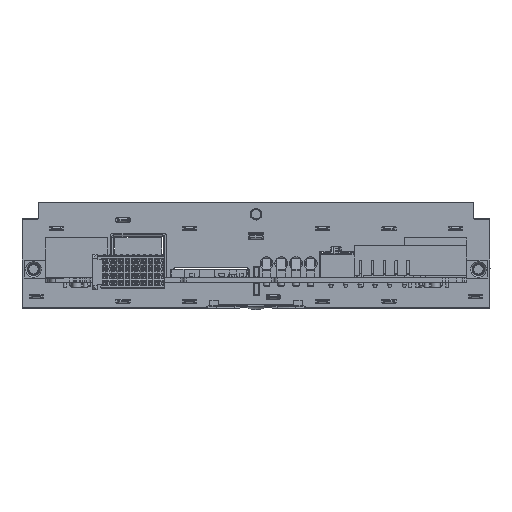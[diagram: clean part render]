
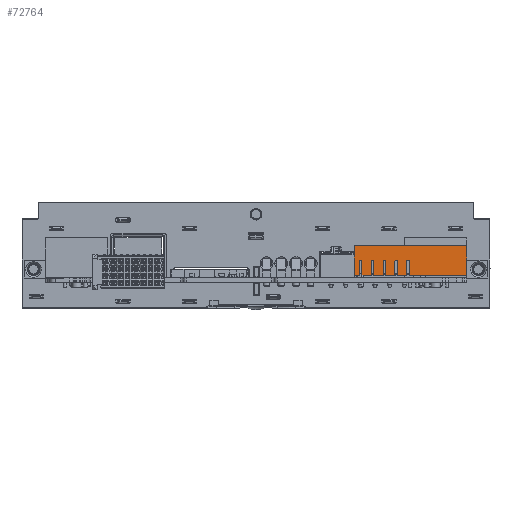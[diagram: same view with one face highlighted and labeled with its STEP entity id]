
A CAD part, front view. The second image highlights one B-rep face of the part: STEP entity #72764.
In plain terms, the highlighted planar face has unit normal (0, -1, 0).
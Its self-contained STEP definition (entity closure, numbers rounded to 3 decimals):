
#2527=CIRCLE('',#76932,0.433);
#2528=CIRCLE('',#76933,0.422);
#2529=CIRCLE('',#76934,0.422);
#2530=CIRCLE('',#76935,0.443);
#2531=CIRCLE('',#76936,0.433);
#4763=FACE_OUTER_BOUND('',#8829,.T.);
#8829=EDGE_LOOP('',(#46599,#46600,#46601,#46602,#46603,#46604,#46605,#46606,
#46607,#46608,#46609,#46610,#46611,#46612,#46613,#46614,#46615,#46616,#46617,
#46618,#46619,#46620,#46621,#46622));
#13408=LINE('',#103448,#21009);
#13543=LINE('',#104069,#21144);
#13586=LINE('',#104168,#21187);
#13909=LINE('',#104921,#21510);
#13910=LINE('',#104923,#21511);
#13911=LINE('',#104927,#21512);
#13912=LINE('',#104929,#21513);
#13913=LINE('',#104931,#21514);
#13914=LINE('',#104935,#21515);
#13915=LINE('',#104937,#21516);
#13916=LINE('',#104939,#21517);
#13917=LINE('',#104942,#21518);
#13918=LINE('',#104943,#21519);
#13919=LINE('',#104945,#21520);
#13920=LINE('',#104947,#21521);
#13921=LINE('',#104951,#21522);
#13922=LINE('',#104953,#21523);
#13923=LINE('',#104955,#21524);
#13924=LINE('',#104958,#21525);
#21009=VECTOR('',#83299,10.28);
#21144=VECTOR('',#83552,39.053);
#21187=VECTOR('',#83621,19.944);
#21510=VECTOR('',#84308,3.223);
#21511=VECTOR('',#84309,4.883);
#21512=VECTOR('',#84312,4.883);
#21513=VECTOR('',#84313,3.223);
#21514=VECTOR('',#84314,4.883);
#21515=VECTOR('',#84317,4.883);
#21516=VECTOR('',#84318,3.266);
#21517=VECTOR('',#84319,4.883);
#21518=VECTOR('',#84322,4.883);
#21519=VECTOR('',#84323,10.28);
#21520=VECTOR('',#84324,1.847);
#21521=VECTOR('',#84325,4.883);
#21522=VECTOR('',#84328,4.883);
#21523=VECTOR('',#84329,3.245);
#21524=VECTOR('',#84330,4.883);
#21525=VECTOR('',#84333,4.883);
#28562=VERTEX_POINT('',#103445);
#28563=VERTEX_POINT('',#103447);
#28722=VERTEX_POINT('',#104068);
#28764=VERTEX_POINT('',#104165);
#28765=VERTEX_POINT('',#104167);
#29012=VERTEX_POINT('',#104919);
#29013=VERTEX_POINT('',#104920);
#29014=VERTEX_POINT('',#104922);
#29015=VERTEX_POINT('',#104924);
#29016=VERTEX_POINT('',#104926);
#29017=VERTEX_POINT('',#104928);
#29018=VERTEX_POINT('',#104930);
#29019=VERTEX_POINT('',#104932);
#29020=VERTEX_POINT('',#104934);
#29021=VERTEX_POINT('',#104936);
#29022=VERTEX_POINT('',#104938);
#29023=VERTEX_POINT('',#104940);
#29024=VERTEX_POINT('',#104944);
#29025=VERTEX_POINT('',#104946);
#29026=VERTEX_POINT('',#104948);
#29027=VERTEX_POINT('',#104950);
#29028=VERTEX_POINT('',#104952);
#29029=VERTEX_POINT('',#104954);
#29030=VERTEX_POINT('',#104956);
#35214=EDGE_CURVE('',#28563,#28562,#13408,.T.);
#35388=EDGE_CURVE('',#28563,#28722,#13543,.T.);
#35439=EDGE_CURVE('',#28765,#28764,#13586,.T.);
#35821=EDGE_CURVE('',#29012,#29013,#13909,.T.);
#35822=EDGE_CURVE('',#29013,#29014,#13910,.T.);
#35823=EDGE_CURVE('',#29014,#29015,#2527,.T.);
#35824=EDGE_CURVE('',#29016,#29015,#13911,.T.);
#35825=EDGE_CURVE('',#29016,#29017,#13912,.T.);
#35826=EDGE_CURVE('',#29017,#29018,#13913,.T.);
#35827=EDGE_CURVE('',#29018,#29019,#2528,.T.);
#35828=EDGE_CURVE('',#29020,#29019,#13914,.T.);
#35829=EDGE_CURVE('',#29020,#29021,#13915,.T.);
#35830=EDGE_CURVE('',#29021,#29022,#13916,.T.);
#35831=EDGE_CURVE('',#29022,#29023,#2529,.T.);
#35832=EDGE_CURVE('',#29023,#28765,#13917,.T.);
#35833=EDGE_CURVE('',#28722,#28764,#13918,.T.);
#35834=EDGE_CURVE('',#28562,#29024,#13919,.T.);
#35835=EDGE_CURVE('',#29024,#29025,#13920,.T.);
#35836=EDGE_CURVE('',#29025,#29026,#2530,.T.);
#35837=EDGE_CURVE('',#29027,#29026,#13921,.T.);
#35838=EDGE_CURVE('',#29027,#29028,#13922,.T.);
#35839=EDGE_CURVE('',#29028,#29029,#13923,.T.);
#35840=EDGE_CURVE('',#29029,#29030,#2531,.T.);
#35841=EDGE_CURVE('',#29012,#29030,#13924,.T.);
#46599=ORIENTED_EDGE('',*,*,#35821,.T.);
#46600=ORIENTED_EDGE('',*,*,#35822,.T.);
#46601=ORIENTED_EDGE('',*,*,#35823,.T.);
#46602=ORIENTED_EDGE('',*,*,#35824,.F.);
#46603=ORIENTED_EDGE('',*,*,#35825,.T.);
#46604=ORIENTED_EDGE('',*,*,#35826,.T.);
#46605=ORIENTED_EDGE('',*,*,#35827,.T.);
#46606=ORIENTED_EDGE('',*,*,#35828,.F.);
#46607=ORIENTED_EDGE('',*,*,#35829,.T.);
#46608=ORIENTED_EDGE('',*,*,#35830,.T.);
#46609=ORIENTED_EDGE('',*,*,#35831,.T.);
#46610=ORIENTED_EDGE('',*,*,#35832,.T.);
#46611=ORIENTED_EDGE('',*,*,#35439,.T.);
#46612=ORIENTED_EDGE('',*,*,#35833,.F.);
#46613=ORIENTED_EDGE('',*,*,#35388,.F.);
#46614=ORIENTED_EDGE('',*,*,#35214,.T.);
#46615=ORIENTED_EDGE('',*,*,#35834,.T.);
#46616=ORIENTED_EDGE('',*,*,#35835,.T.);
#46617=ORIENTED_EDGE('',*,*,#35836,.T.);
#46618=ORIENTED_EDGE('',*,*,#35837,.F.);
#46619=ORIENTED_EDGE('',*,*,#35838,.T.);
#46620=ORIENTED_EDGE('',*,*,#35839,.T.);
#46621=ORIENTED_EDGE('',*,*,#35840,.T.);
#46622=ORIENTED_EDGE('',*,*,#35841,.F.);
#66013=PLANE('',#76931);
#72764=ADVANCED_FACE('',(#4763),#66013,.F.);
#76931=AXIS2_PLACEMENT_3D('',#104918,#84306,#84307);
#76932=AXIS2_PLACEMENT_3D('',#104925,#84310,#84311);
#76933=AXIS2_PLACEMENT_3D('',#104933,#84315,#84316);
#76934=AXIS2_PLACEMENT_3D('',#104941,#84320,#84321);
#76935=AXIS2_PLACEMENT_3D('',#104949,#84326,#84327);
#76936=AXIS2_PLACEMENT_3D('',#104957,#84331,#84332);
#83299=DIRECTION('',(0.,0.,-1.));
#83552=DIRECTION('',(1.,0.,0.));
#83621=DIRECTION('',(1.,0.,0.));
#84306=DIRECTION('center_axis',(0.,1.,0.));
#84307=DIRECTION('ref_axis',(0.,0.,
1.));
#84308=DIRECTION('',(1.,0.,0.));
#84309=DIRECTION('',(0.,0.,1.));
#84310=DIRECTION('center_axis',(0.,1.,0.));
#84311=DIRECTION('ref_axis',(-1.,0.,0.));
#84312=DIRECTION('',(0.,0.,1.));
#84313=DIRECTION('',(1.,0.,0.));
#84314=DIRECTION('',(0.,0.,1.));
#84315=DIRECTION('center_axis',(0.,1.,0.));
#84316=DIRECTION('ref_axis',(-1.,0.,0.));
#84317=DIRECTION('',(0.,0.,1.));
#84318=DIRECTION('',(1.,0.,0.));
#84319=DIRECTION('',(0.,0.,1.));
#84320=DIRECTION('center_axis',(0.,1.,0.));
#84321=DIRECTION('ref_axis',(-1.,0.,0.));
#84322=DIRECTION('',(0.,0.,-1.));
#84323=DIRECTION('',(0.,0.,-1.));
#84324=DIRECTION('',(1.,0.,0.));
#84325=DIRECTION('',(0.,0.,1.));
#84326=DIRECTION('center_axis',(0.,1.,0.));
#84327=DIRECTION('ref_axis',(-1.,0.,0.));
#84328=DIRECTION('',(0.,0.,1.));
#84329=DIRECTION('',(1.,0.,0.));
#84330=DIRECTION('',(0.,0.,1.));
#84331=DIRECTION('center_axis',(0.,1.,0.));
#84332=DIRECTION('ref_axis',(-1.,0.,0.));
#84333=DIRECTION('',(0.,0.,1.));
#103445=CARTESIAN_POINT('',(33.947,-63.583,0.9));
#103447=CARTESIAN_POINT('',(33.947,-63.583,11.18));
#103448=CARTESIAN_POINT('',(33.947,-63.583,11.18));
#104068=CARTESIAN_POINT('',(73.,-63.583,11.18));
#104069=CARTESIAN_POINT('',(33.947,-63.583,11.18));
#104165=CARTESIAN_POINT('',(73.,-63.583,0.9));
#104167=CARTESIAN_POINT('',(53.056,-63.583,0.9));
#104168=CARTESIAN_POINT('',(53.056,-63.583,0.9));
#104918=CARTESIAN_POINT('Origin',(33.947,-63.583,0.9));
#104919=CARTESIAN_POINT('',(40.791,-63.583,0.9));
#104920=CARTESIAN_POINT('',(44.014,-63.583,0.9));
#104921=CARTESIAN_POINT('',(40.791,-63.583,0.9));
#104922=CARTESIAN_POINT('',(44.014,-63.583,5.783));
#104923=CARTESIAN_POINT('',(44.014,-63.583,0.9));
#104924=CARTESIAN_POINT('',(44.88,-63.583,5.783));
#104925=CARTESIAN_POINT('Origin',(44.447,-63.583,5.783));
#104926=CARTESIAN_POINT('',(44.88,-63.583,0.9));
#104927=CARTESIAN_POINT('',(44.88,-63.583,0.9));
#104928=CARTESIAN_POINT('',(48.103,-63.583,0.9));
#104929=CARTESIAN_POINT('',(44.88,-63.583,0.9));
#104930=CARTESIAN_POINT('',(48.103,-63.583,5.783));
#104931=CARTESIAN_POINT('',(48.103,-63.583,0.9));
#104932=CARTESIAN_POINT('',(48.947,-63.583,5.783));
#104933=CARTESIAN_POINT('Origin',(48.525,-63.583,5.783));
#104934=CARTESIAN_POINT('',(48.947,-63.583,0.9));
#104935=CARTESIAN_POINT('',(48.947,-63.583,0.9));
#104936=CARTESIAN_POINT('',(52.212,-63.583,0.9));
#104937=CARTESIAN_POINT('',(48.947,-63.583,0.9));
#104938=CARTESIAN_POINT('',(52.212,-63.583,5.783));
#104939=CARTESIAN_POINT('',(52.212,-63.583,0.9));
#104940=CARTESIAN_POINT('',(53.056,-63.583,5.783));
#104941=CARTESIAN_POINT('Origin',(52.634,-63.583,5.783));
#104942=CARTESIAN_POINT('',(53.056,-63.583,5.783));
#104943=CARTESIAN_POINT('',(73.,-63.583,11.18));
#104944=CARTESIAN_POINT('',(35.794,-63.583,0.9));
#104945=CARTESIAN_POINT('',(33.947,-63.583,0.9));
#104946=CARTESIAN_POINT('',(35.794,-63.583,5.783));
#104947=CARTESIAN_POINT('',(35.794,-63.583,0.9));
#104948=CARTESIAN_POINT('',(36.681,-63.583,5.783));
#104949=CARTESIAN_POINT('Origin',(36.237,-63.583,5.783));
#104950=CARTESIAN_POINT('',(36.681,-63.583,0.9));
#104951=CARTESIAN_POINT('',(36.681,-63.583,0.9));
#104952=CARTESIAN_POINT('',(39.926,-63.583,0.9));
#104953=CARTESIAN_POINT('',(36.681,-63.583,0.9));
#104954=CARTESIAN_POINT('',(39.926,-63.583,5.783));
#104955=CARTESIAN_POINT('',(39.926,-63.583,0.9));
#104956=CARTESIAN_POINT('',(40.791,-63.583,5.783));
#104957=CARTESIAN_POINT('Origin',(40.358,-63.583,5.783));
#104958=CARTESIAN_POINT('',(40.791,-63.583,0.9));
